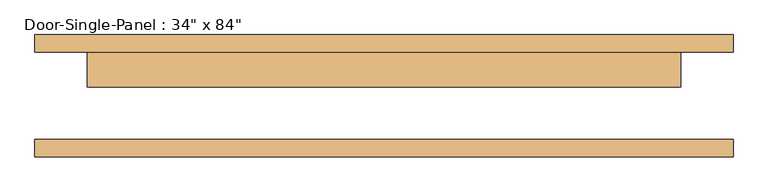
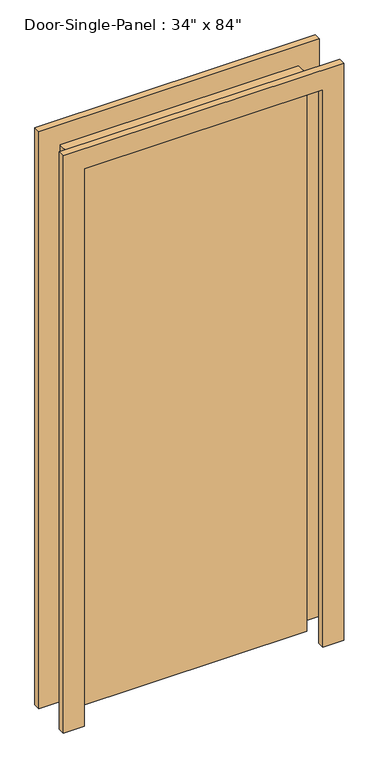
"""IFC4 building model written with IfcOpenShell, lengths in millimetres: door geometry."""

import ifcopenshell
import ifcopenshell.guid

model = None  # the IFC model being written
_history = None  # IfcOwnerHistory: only IFC2X3 demands one
_inside = {}  # id of a spatial element -> (the spatial element, [elements in it])
_under = {}  # id of a project, library or spatial element -> (it, [spatial elements below it])
_declared = {}  # id of a project -> (the project, [libraries it declares])
_typed = {}  # id of a type object -> (the type object, [elements of that type])
_made_of = {}  # id of a material, layer set ... -> (it, [elements and type objects made of it])


def new_model(schema):
    """Start an empty IFC model of exactly this schema.

    Asked for "IFC4X3", IfcOpenShell would pick the latest addendum, in which some entities
    have other attributes; the version numbers below select the first issue.
    IFC2X3 requires an IfcOwnerHistory on every rooted entity: one is made here for all.
    """
    global model, _history
    if schema == "IFC4X3":
        model = ifcopenshell.file(schema_version=(4, 3, 0, 0))
    else:
        model = ifcopenshell.file(schema=schema)
    _inside.clear()
    _under.clear()
    _declared.clear()
    _typed.clear()
    _made_of.clear()
    _history = None
    if model.schema == "IFC2X3":
        org = make("IfcOrganization", Name="unknown")
        user = make(
            "IfcPersonAndOrganization",
            ThePerson=make("IfcPerson", FamilyName="unknown"),
            TheOrganization=org,
        )
        app = make(
            "IfcApplication",
            ApplicationDeveloper=org,
            Version="unknown",
            ApplicationFullName="unknown",
            ApplicationIdentifier="unknown",
        )
        _history = make(
            "IfcOwnerHistory",
            OwningUser=user,
            OwningApplication=app,
            ChangeAction="ADDED",
            CreationDate=0,
        )
    return model


def make(cls, **values):
    """One entity of the class cls with the attributes given. An attribute that is None is left unset."""
    return model.create_entity(
        cls, **{name: value for name, value in values.items() if value is not None}
    )


def rooted(cls, **values):
    """An entity with a GlobalId (a new one), such as an element, a storey or a relation."""
    return make(cls, GlobalId=ifcopenshell.guid.new(), OwnerHistory=_history, **values)


def si_unit(unit_type, name, prefix=None):
    """IfcSIUnit, for example si_unit("LENGTHUNIT", "METRE", prefix="MILLI")."""
    return make("IfcSIUnit", UnitType=unit_type, Prefix=prefix, Name=name)


def assignment(units):
    """IfcUnitAssignment: the units of a project."""
    return None if units is None else make("IfcUnitAssignment", Units=units)


def point(xyz):
    """IfcCartesianPoint."""
    return None if xyz is None else make("IfcCartesianPoint", Coordinates=xyz)


def direction(xyz):
    """IfcDirection."""
    return None if xyz is None else make("IfcDirection", DirectionRatios=xyz)


def frame(location, z_axis=None, x_axis=None):
    """IfcAxis2Placement3D, a coordinate frame: its origin and axes. An axis left out is left unset."""
    return make(
        "IfcAxis2Placement3D",
        Location=point(location),
        Axis=direction(z_axis),
        RefDirection=direction(x_axis),
    )


def origin():
    """The frame at (0, 0, 0) with its axes left unset."""
    return frame((0.0, 0.0, 0.0))


def origin_with_axes():
    """The frame at (0, 0, 0) with the z axis (0, 0, 1) and the x axis (1, 0, 0) written out."""
    return frame((0.0, 0.0, 0.0), z_axis=(0.0, 0.0, 1.0), x_axis=(1.0, 0.0, 0.0))


def place(relative_to, where):
    """IfcLocalPlacement: puts the frame where relative to a parent placement (None: the world)."""
    return make(
        "IfcLocalPlacement", PlacementRelTo=relative_to, RelativePlacement=where
    )


def context(
    kind, dimensions, precision=None, world=None, true_north=None, identifier=None
):
    """IfcGeometricRepresentationContext, for example the 3D "Model" context."""
    return make(
        "IfcGeometricRepresentationContext",
        ContextIdentifier=identifier,
        ContextType=kind,
        CoordinateSpaceDimension=dimensions,
        Precision=precision,
        WorldCoordinateSystem=world,
        TrueNorth=true_north,
    )


def project(units=None, contexts=None):
    """IfcProject with its units and contexts."""
    return rooted(
        "IfcProject",
        Name="project",
        RepresentationContexts=contexts,
        UnitsInContext=assignment(units),
    )


def spatial(cls, under=None, at=None, **own):
    """A site, building, storey or space (cls), placed at a placement, below another one or the project."""
    s = rooted(cls, ObjectPlacement=at, **own)
    if under is not None:
        _under.setdefault(under.id(), (under, []))[1].append(s)
    return s


def polyline(points):
    """IfcPolyline through the points."""
    return make("IfcPolyline", Points=[point(p) for p in points])


def outline(outer, holes=None, kind="AREA"):
    """IfcArbitraryClosedProfileDef: a profile drawn as a closed curve; with holes, ...WithVoids."""
    if holes is None:
        return make("IfcArbitraryClosedProfileDef", ProfileType=kind, OuterCurve=outer)
    return make(
        "IfcArbitraryProfileDefWithVoids",
        ProfileType=kind,
        OuterCurve=outer,
        InnerCurves=holes,
    )


def extrude(swept, where, along, depth):
    """IfcExtrudedAreaSolid: the profile swept, set in the frame where, extruded along a direction by depth."""
    return make(
        "IfcExtrudedAreaSolid",
        SweptArea=swept,
        Position=where,
        ExtrudedDirection=direction(along),
        Depth=depth,
    )


def shape(context_of_items, identifier, shape_type, items):
    """IfcShapeRepresentation: the items that make up one representation, for example the "Body"."""
    return make(
        "IfcShapeRepresentation",
        ContextOfItems=context_of_items,
        RepresentationIdentifier=identifier,
        RepresentationType=shape_type,
        Items=items,
    )


def source(mapping_origin, context_of_items, identifier, shape_type, items):
    """IfcRepresentationMap: a shape defined once, which mapped items show again and again."""
    return make(
        "IfcRepresentationMap",
        MappingOrigin=mapping_origin,
        MappedRepresentation=shape(context_of_items, identifier, shape_type, items),
    )


def transform(
    local_origin,
    x_axis=None,
    y_axis=None,
    z_axis=None,
    scale=None,
    scale2=None,
    scale3=None,
    uniform=True,
):
    """IfcCartesianTransformationOperator3D, or its non-uniform kind. x_axis, y_axis, z_axis: its Axis1, 2, 3."""
    if uniform:
        return make(
            "IfcCartesianTransformationOperator3D",
            Axis1=direction(x_axis),
            Axis2=direction(y_axis),
            LocalOrigin=point(local_origin),
            Scale=scale,
            Axis3=direction(z_axis),
        )
    return make(
        "IfcCartesianTransformationOperator3DnonUniform",
        Axis1=direction(x_axis),
        Axis2=direction(y_axis),
        LocalOrigin=point(local_origin),
        Scale=scale,
        Axis3=direction(z_axis),
        Scale2=scale2,
        Scale3=scale3,
    )


def mapped(mapping_source, mapping_target):
    """IfcMappedItem: shows the shape of a source again, moved by a transform."""
    return make(
        "IfcMappedItem", MappingSource=mapping_source, MappingTarget=mapping_target
    )


def made_of(thing, what):
    """Note that an element or type object is made of a material, layer set ...; save() writes the relation."""
    if what is not None:
        _made_of.setdefault(what.id(), (what, []))[1].append(thing)
    return thing


def element(
    cls,
    number,
    at=None,
    inside=None,
    cuts=None,
    type_object=None,
    material=None,
    context=None,
    identifier="Body",
    shape_type=None,
    held_by="IfcProductDefinitionShape",
    body=None,
    shapes=None,
    **own,
):
    """One element of the class cls, such as IfcWall. Its Tag is "e" and its number.

    at: its placement. inside: the storey or other place that contains it. cuts: it is an
    opening in that element (IfcRelVoidsElement). A single representation is given by context,
    identifier, shape_type and body (its items); several are given by shapes. held_by: the class
    of the entity that holds the representations. save() writes the other relations.
    """
    e = rooted(cls, Tag="e%d" % number, ObjectPlacement=at, **own)
    if body is not None:
        shapes = [shape(context, identifier, shape_type, body)]
    if shapes is not None:
        e.Representation = make(held_by, Representations=shapes)
    if inside is not None:
        _inside.setdefault(inside.id(), (inside, []))[1].append(e)
    if cuts is not None:
        rooted(
            "IfcRelVoidsElement", RelatingBuildingElement=cuts, RelatedOpeningElement=e
        )
    if type_object is not None:
        _typed.setdefault(type_object.id(), (type_object, []))[1].append(e)
    return made_of(e, material)


def aggregate(whole, parts):
    """IfcRelAggregates: a whole, such as a stair, and the parts it consists of."""
    return rooted("IfcRelAggregates", RelatingObject=whole, RelatedObjects=parts)


def save(model, path):
    """Write the relations noted so far, then the file.

    IfcRelAggregates (storeys below a building ...), IfcRelContainedInSpatialStructure (elements
    in a storey), IfcRelDefinesByType, IfcRelAssociatesMaterial and IfcRelDeclares: one each for
    every whole, place, type object, material and project.
    """
    for whole, parts in _under.values():
        aggregate(whole, parts)
    for where, things in _inside.values():
        rooted(
            "IfcRelContainedInSpatialStructure",
            RelatedElements=things,
            RelatingStructure=where,
        )
    for kind, things in _typed.values():
        rooted("IfcRelDefinesByType", RelatedObjects=things, RelatingType=kind)
    for what, things in _made_of.values():
        rooted("IfcRelAssociatesMaterial", RelatedObjects=things, RelatingMaterial=what)
    for by, libraries in _declared.values():
        rooted("IfcRelDeclares", RelatingContext=by, RelatedDefinitions=libraries)
    model.write(path)


def door_11f27327(model_context):
    return source(origin(), model_context, "Body", "SweptSolid", [
        extrude(outline(polyline([(431.8, 12.7), (-431.8, 12.7), (-431.8, 63.5), (431.8, 63.5), (431.8, 12.7)])), origin_with_axes(), (0.0, 0.0, 1.0), 2133.6),
        extrude(outline(polyline([(2209.8, -508.0), (0.0, -508.0), (0.0, -431.8), (2133.6, -431.8), (2133.6, 431.8), (0.0, 431.8), (0.0, 508.0), (2209.8, 508.0), (2209.8, -508.0)])), frame((0.0, 63.5, 0.0), z_axis=(0.0, 1.0, 0.0), x_axis=(0.0, 0.0, 1.0)), (0.0, 0.0, 1.0), 25.4),
        extrude(outline(polyline([(2209.8, 508.0), (2209.8, -508.0), (0.0, -508.0), (0.0, -431.8), (2133.6, -431.8), (2133.6, 431.8), (0.0, 431.8), (0.0, 508.0), (2209.8, 508.0)])), frame((0.0, -88.9, 0.0), z_axis=(0.0, 1.0, 0.0), x_axis=(0.0, 0.0, 1.0)), (0.0, 0.0, 1.0), 25.4),
    ])


if __name__ == "__main__":
    model = new_model("IFC4")
    model_context = context("Model", 3, world=origin())
    ifc_project = project(units=[si_unit("LENGTHUNIT", "METRE", prefix="MILLI")], contexts=[model_context])
    site = spatial("IfcSite", under=ifc_project)
    building = spatial("IfcBuilding", under=site)
    placement = place(None, origin())
    door_shape = door_11f27327(model_context)
    element("IfcDoor", 1, ObjectType="Door-Single-Panel : 34\" x 84\"", at=placement, inside=building, context=model_context, shape_type="MappedRepresentation", body=[
        mapped(door_shape, transform((0.0, 0.0, 0.0), x_axis=(1.0, 0.0, 0.0), y_axis=(0.0, 1.0, 0.0), z_axis=(0.0, 0.0, 1.0))),
    ])
    save(model, "model.ifc")
